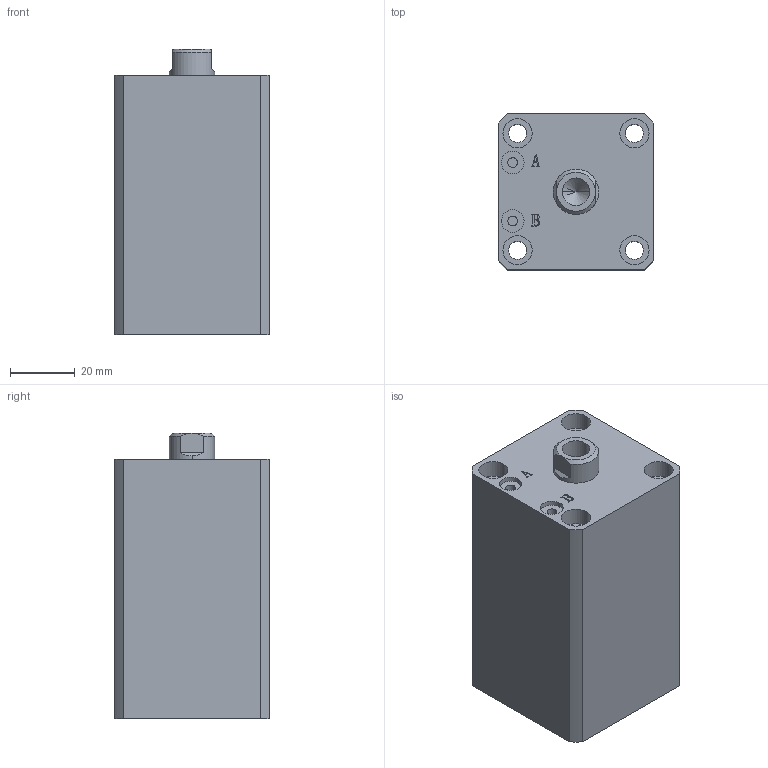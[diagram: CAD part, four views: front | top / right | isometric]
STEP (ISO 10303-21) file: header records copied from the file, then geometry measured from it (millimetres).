
FILE_DESCRIPTION (( 'STEP AP203' ), '1' );
FILE_NAME ('HTB-SDMA25-35N.STEP', '2019-10-07T10:52:58', ( '微软用户' ), ( '微软中国' ), 'SwSTEP 2.0', 'SolidWorks 2012', '' );
FILE_SCHEMA (( 'CONFIG_CONTROL_DESIGN' ));
Length unit declared in the file: millimetre
Products named in the file (3): HTB-SDMA25-35N; HTB-SDMA25-35N活塞杆; HTB-SDMA25-35掛极
Assembly tree (2 placements, depth 2):
  HTB-SDMA25-35N
    HTB-SDMA25-35掛极
    HTB-SDMA25-35N活塞杆
Bounding box: 48 x 48 x 88 mm (x, y, z)
Volume: 161518.5 mm3; surface area: 36633.9 mm2
Topology: 2 solids, 2 shells, 137 faces, 329 edges, 215 vertices
Faces by surface type: plane 65, cylinder 46, bspline 16, torus 6, cone 4
Entity records: 5072 total; most frequent: CARTESIAN_POINT 1592, ORIENTED_EDGE 654, DIRECTION 645, EDGE_CURVE 327, AXIS2_PLACEMENT_3D 232, VERTEX_POINT 215, LINE 181, VECTOR 181
